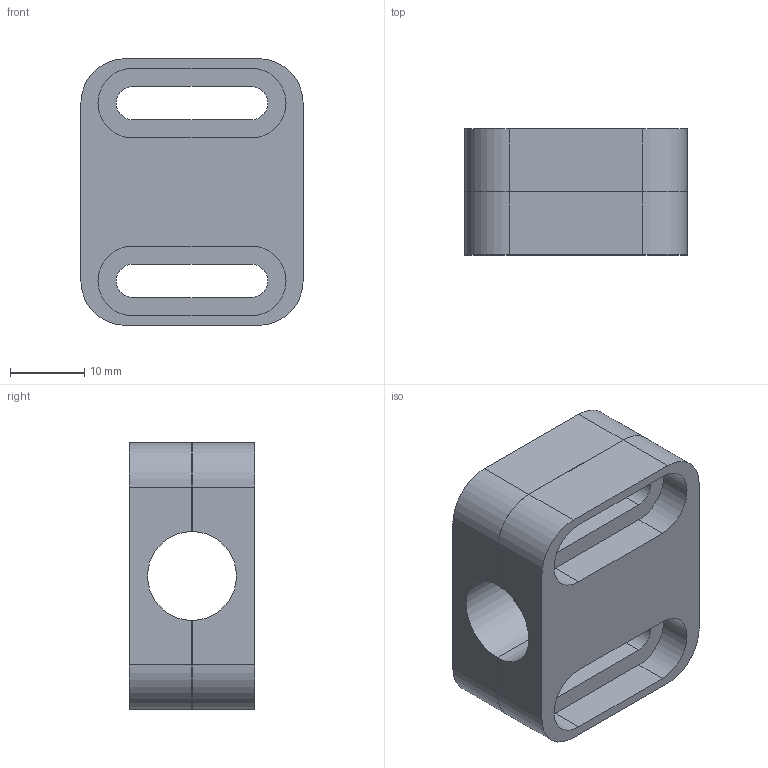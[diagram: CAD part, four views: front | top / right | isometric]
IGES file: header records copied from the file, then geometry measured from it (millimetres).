
Start section:  PTC IGES file: 2035668
Global section: file name: 2035668; native system: Creo Parametric by PTC Inc.; preprocessor: 2019292; author: s.mayer; organization: Unknown; date: 20240801.074345; units: millimetre
Bounding box: 30 x 17.01 x 36 mm (x, y, z)
Surface area: 6573.2 mm2 (no closed solid volume)
Topology: 0 solids, 0 shells, 91 faces, 452 edges, 452 vertices
Faces by surface type: bspline 63, revolution 28
